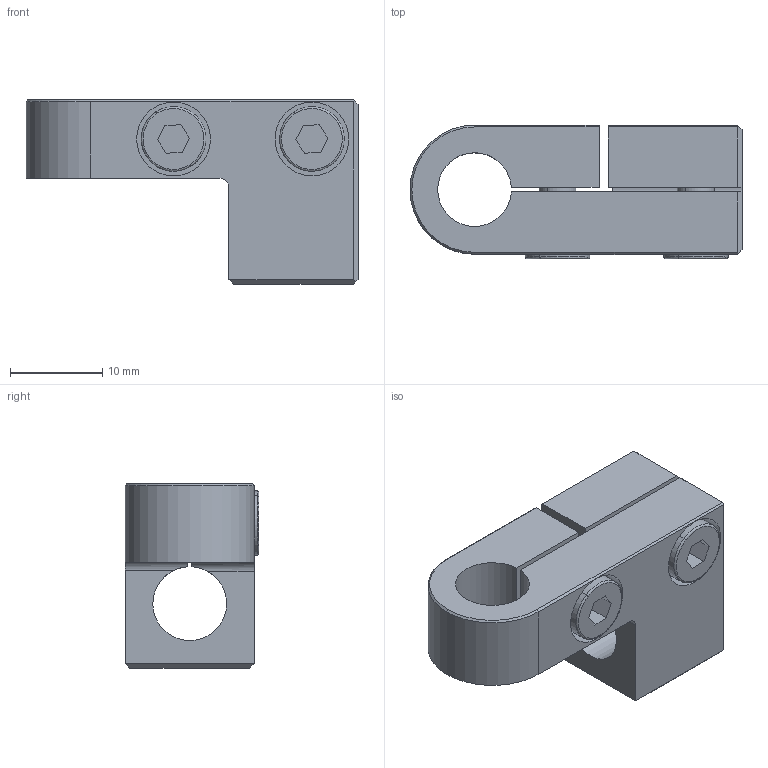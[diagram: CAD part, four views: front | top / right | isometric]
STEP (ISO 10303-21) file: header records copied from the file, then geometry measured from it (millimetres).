
FILE_DESCRIPTION (( 'STEP AP214' ), '1' );
FILE_NAME ('SMBR5-0808.STEP', '2019-11-07T02:18:16', ( '微软用户' ), ( '微软中国' ), 'SwSTEP 2.0', 'SolidWorks 2016', '' );
FILE_SCHEMA (( 'AUTOMOTIVE_DESIGN' ));
Length unit declared in the file: millimetre
Products named in the file (1): SMBR5-0808
Bounding box: 36 x 14.5 x 20 mm (x, y, z)
Volume: 4874.2 mm3; surface area: 4336.4 mm2
Topology: 5 solids, 5 shells, 476 faces, 1368 edges, 904 vertices
Faces by surface type: plane 431, cylinder 35, cone 6, bspline 4
Entity records: 21215 total; most frequent: CARTESIAN_POINT 3007, DIRECTION 2753, ORIENTED_EDGE 2736, EDGE_CURVE 1368, AXIS2_PLACEMENT_3D 922, VECTOR 909, LINE 909, VERTEX_POINT 904
